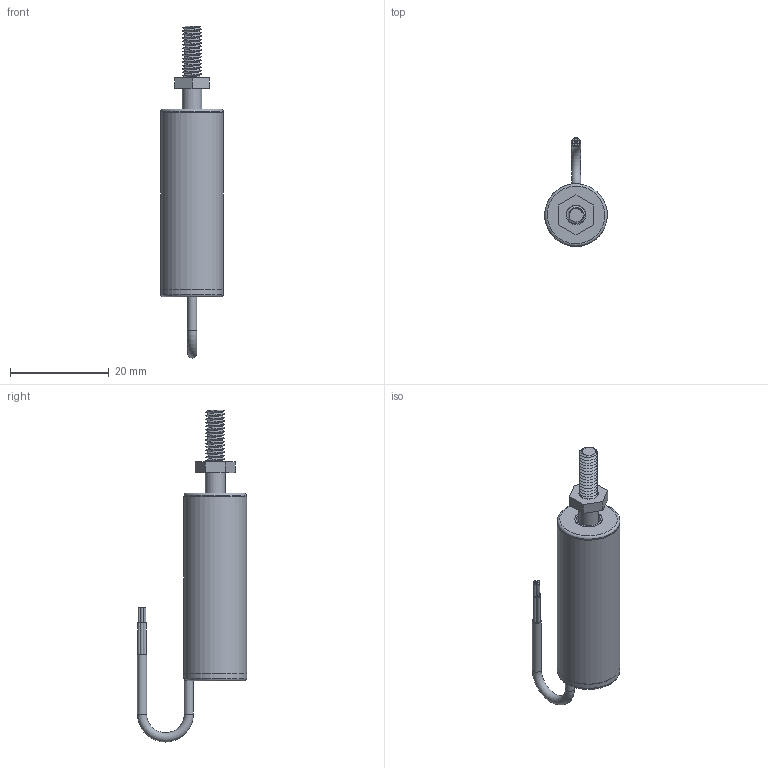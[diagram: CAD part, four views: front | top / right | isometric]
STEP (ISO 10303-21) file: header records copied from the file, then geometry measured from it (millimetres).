
FILE_DESCRIPTION(/* description */ (''),/* implementation_level */ '2;1');
FILE_NAME(/* name */ 'ILPS-13Z-2.5-A-00-YY-S Assembly (wrapped).iam.stp',/* time_stamp */ '2023-05-05T16:05:11-04:00',/* author */ ('TSC_Grant'),/* organization */ (''),/* preprocessor_version */ 'ST-DEVELOPER v19.2',/* originating_system */ 'Autodesk Inventor 2024',/* authorisation */ '');
FILE_SCHEMA (('AUTOMOTIVE_DESIGN { 1 0 10303 214 3 1 1 }'));
Length unit declared in the file: inch
Products named in the file (5): 3020-0017-XX Assembly_SW; 3020-0017-XX Sensor Tube_SW; 3020-0017-XX Shaft_SW; 3020-0017-XX Wire_SW; BS 4183 - M4
Assembly tree (4 placements, depth 2):
  3020-0017-XX Assembly_SW
    3020-0017-XX Sensor Tube_SW
    3020-0017-XX Shaft_SW
    3020-0017-XX Wire_SW
    BS 4183 - M4
Bounding box: 12.7 x 22.14 x 67.38 mm (x, y, z)
Volume: 1400.5 mm3; surface area: 5790.1 mm2
Topology: 7 solids, 7 shells, 63 faces, 119 edges, 78 vertices
Faces by surface type: plane 31, cylinder 22, cone 4, torus 3, bspline 3
Full cylindrical faces by diameter (mm): 0.508 x4, 0.635 x4, 1.857 x2, 3.242 x1, 3.988 x1, 4.826 x1, 5.588 x3, 12.446 x1, 12.7 x3
Entity records: 3488 total; most frequent: CARTESIAN_POINT 1869, DIRECTION 300, ORIENTED_EDGE 238, AXIS2_PLACEMENT_3D 125, EDGE_CURVE 119, EDGE_LOOP 81, VERTEX_POINT 78, FACE_OUTER_BOUND 63
